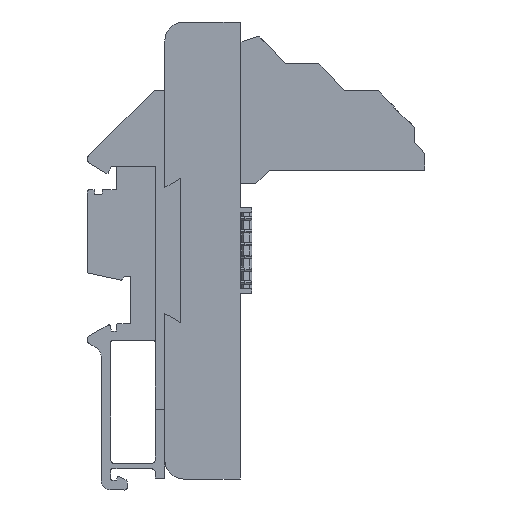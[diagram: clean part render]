
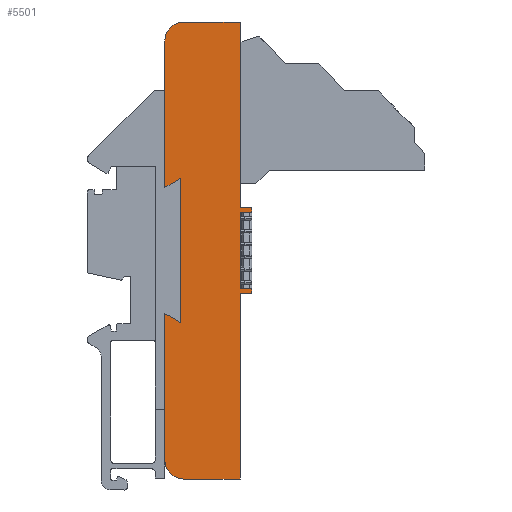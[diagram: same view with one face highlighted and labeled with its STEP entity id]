
A CAD part, front view. The second image highlights one B-rep face of the part: STEP entity #5501.
In plain terms, the highlighted planar face has unit normal (0, -1, 0).
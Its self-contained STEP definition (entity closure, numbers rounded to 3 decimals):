
#4207=CIRCLE('',#20882,4.);
#4209=CIRCLE('',#20890,4.);
#4590=FACE_OUTER_BOUND('',#7074,.T.);
#5501=ADVANCED_FACE('F188',(#4590),#6331,.T.);
#6331=PLANE('',#20900);
#7074=EDGE_LOOP('',(#8783,#8784,#8785,#8786,#8787,#8788,#8789,#8790,#8791,
#8792,#8793,#8794,#8795,#8796,#8797,#8798,#8799,#8800));
#8783=ORIENTED_EDGE('',*,*,#14928,.T.);
#8784=ORIENTED_EDGE('',*,*,#14873,.T.);
#8785=ORIENTED_EDGE('',*,*,#14877,.T.);
#8786=ORIENTED_EDGE('',*,*,#14881,.F.);
#8787=ORIENTED_EDGE('',*,*,#14882,.F.);
#8788=ORIENTED_EDGE('',*,*,#14885,.F.);
#8789=ORIENTED_EDGE('',*,*,#14888,.F.);
#8790=ORIENTED_EDGE('',*,*,#14894,.F.);
#8791=ORIENTED_EDGE('',*,*,#14441,.F.);
#8792=ORIENTED_EDGE('',*,*,#14898,.F.);
#8793=ORIENTED_EDGE('',*,*,#14902,.F.);
#8794=ORIENTED_EDGE('',*,*,#14907,.F.);
#8795=ORIENTED_EDGE('',*,*,#14912,.F.);
#8796=ORIENTED_EDGE('',*,*,#14916,.F.);
#8797=ORIENTED_EDGE('',*,*,#14921,.T.);
#8798=ORIENTED_EDGE('',*,*,#14922,.T.);
#8799=ORIENTED_EDGE('',*,*,#14925,.T.);
#8800=ORIENTED_EDGE('',*,*,#14927,.F.);
#12839=VERTEX_POINT('',#26063);
#12842=VERTEX_POINT('',#26068);
#13113=VERTEX_POINT('',#27595);
#13114=VERTEX_POINT('',#27596);
#13115=VERTEX_POINT('',#27601);
#13118=VERTEX_POINT('',#27609);
#13119=VERTEX_POINT('',#27613);
#13121=VERTEX_POINT('',#27619);
#13123=VERTEX_POINT('',#27625);
#13127=VERTEX_POINT('',#27642);
#13130=VERTEX_POINT('',#27650);
#13134=VERTEX_POINT('',#27660);
#13138=VERTEX_POINT('',#27670);
#13140=VERTEX_POINT('',#27676);
#13143=VERTEX_POINT('',#27685);
#13144=VERTEX_POINT('',#27689);
#13145=VERTEX_POINT('',#27693);
#13146=VERTEX_POINT('',#27697);
#14441=EDGE_CURVE('E43',#12842,#12839,#16947,.T.);
#14873=EDGE_CURVE('E228',#13113,#13114,#17183,.T.);
#14877=EDGE_CURVE('E503',#13114,#13115,#17187,.T.);
#14881=EDGE_CURVE('E459',#13118,#13115,#17191,.T.);
#14882=EDGE_CURVE('E17',#13119,#13118,#17192,.T.);
#14885=EDGE_CURVE('E52',#13121,#13119,#4207,.T.);
#14888=EDGE_CURVE('E49',#13123,#13121,#17196,.T.);
#14894=EDGE_CURVE('E46',#12839,#13123,#17202,.T.);
#14898=EDGE_CURVE('E39',#13127,#12842,#17206,.T.);
#14902=EDGE_CURVE('E57',#13130,#13127,#17210,.T.);
#14907=EDGE_CURVE('E54',#13134,#13130,#4209,.T.);
#14912=EDGE_CURVE('E1',#13138,#13134,#17218,.T.);
#14916=EDGE_CURVE('E455',#13140,#13138,#17222,.T.);
#14921=EDGE_CURVE('E502',#13140,#13143,#17227,.T.);
#14922=EDGE_CURVE('E224',#13143,#13144,#17228,.T.);
#14925=EDGE_CURVE('E467',#13144,#13145,#17231,.T.);
#14927=EDGE_CURVE('E453',#13146,#13145,#17233,.T.);
#14928=EDGE_CURVE('E470',#13146,#13113,#17234,.T.);
#16947=LINE('',#26069,#18801);
#17183=LINE('',#27594,#19037);
#17187=LINE('',#27602,#19041);
#17191=LINE('',#27610,#19045);
#17192=LINE('',#27612,#19046);
#17196=LINE('',#27624,#19050);
#17202=LINE('',#27635,#19056);
#17206=LINE('',#27641,#19060);
#17210=LINE('',#27649,#19064);
#17218=LINE('',#27669,#19072);
#17222=LINE('',#27677,#19076);
#17227=LINE('',#27686,#19081);
#17228=LINE('',#27688,#19082);
#17231=LINE('',#27694,#19085);
#17233=LINE('',#27698,#19087);
#17234=LINE('',#27700,#19088);
#18801=VECTOR('',#21841,1.);
#19037=VECTOR('',#22579,1.);
#19041=VECTOR('',#22585,1.);
#19045=VECTOR('',#22591,1.);
#19046=VECTOR('',#22594,1.);
#19050=VECTOR('',#22606,1.);
#19056=VECTOR('',#22614,1.);
#19060=VECTOR('',#22622,1.);
#19064=VECTOR('',#22628,1.);
#19072=VECTOR('',#22644,1.);
#19076=VECTOR('',#22650,1.);
#19081=VECTOR('',#22657,1.);
#19082=VECTOR('',#22660,1.);
#19085=VECTOR('',#22665,1.);
#19087=VECTOR('',#22669,1.);
#19088=VECTOR('',#22672,1.);
#20882=AXIS2_PLACEMENT_3D('',#27618,#22599,#22600);
#20890=AXIS2_PLACEMENT_3D('',#27659,#22635,#22636);
#20900=AXIS2_PLACEMENT_3D('',#27702,#22675,#22676);
#21841=DIRECTION('',(0.,0.,1.));
#22579=DIRECTION('',(0.,0.,1.));
#22585=DIRECTION('',(-1.,0.,0.));
#22591=DIRECTION('',(0.,0.,-1.));
#22594=DIRECTION('',(1.,0.,0.));
#22599=DIRECTION('',(0.,1.,0.));
#22600=DIRECTION('',(0.,0.,1.));
#22606=DIRECTION('',(0.,0.,1.));
#22614=DIRECTION('',(-0.866,0.,-0.5));
#22622=DIRECTION('',(0.866,0.,-0.5));
#22628=DIRECTION('',(0.,0.,1.));
#22635=DIRECTION('',(0.,1.,0.));
#22636=DIRECTION('',(0.,0.,1.));
#22644=DIRECTION('',(-1.,0.,0.));
#22650=DIRECTION('',(0.,0.,-1.));
#22657=DIRECTION('',(1.,0.,0.));
#22660=DIRECTION('',(0.,0.,1.));
#22665=DIRECTION('',(-1.,0.,0.));
#22669=DIRECTION('',(0.,0.,-1.));
#22672=DIRECTION('',(1.,0.,0.));
#22675=DIRECTION('',(0.,-1.,0.));
#22676=DIRECTION('',(0.,0.,1.));
#26063=CARTESIAN_POINT('',(3.3,-25.6,15.15));
#26068=CARTESIAN_POINT('',(3.3,-25.6,-15.15));
#26069=CARTESIAN_POINT('',(3.3,-25.6,0.));
#27594=CARTESIAN_POINT('',(18.3,-25.6,8.525));
#27595=CARTESIAN_POINT('',(18.3,-25.6,8.05));
#27596=CARTESIAN_POINT('',(18.3,-25.6,9.));
#27601=CARTESIAN_POINT('',(15.8,-25.6,9.));
#27602=CARTESIAN_POINT('',(17.05,-25.6,9.));
#27609=CARTESIAN_POINT('',(15.8,-25.6,48.));
#27610=CARTESIAN_POINT('',(15.8,-25.6,28.5));
#27612=CARTESIAN_POINT('',(9.9,-25.6,48.));
#27613=CARTESIAN_POINT('',(4.,-25.6,48.));
#27618=CARTESIAN_POINT('',(4.,-25.6,44.));
#27619=CARTESIAN_POINT('',(0.,-25.6,44.));
#27624=CARTESIAN_POINT('',(0.,-25.6,28.622));
#27625=CARTESIAN_POINT('',(0.,-25.6,13.245));
#27635=CARTESIAN_POINT('',(1.65,-25.6,14.197));
#27641=CARTESIAN_POINT('',(1.65,-25.6,-14.197));
#27642=CARTESIAN_POINT('',(0.,-25.6,-13.245));
#27649=CARTESIAN_POINT('',(0.,-25.6,-28.622));
#27650=CARTESIAN_POINT('',(0.,-25.6,-44.));
#27659=CARTESIAN_POINT('',(4.,-25.6,-44.));
#27660=CARTESIAN_POINT('',(4.,-25.6,-48.));
#27669=CARTESIAN_POINT('',(9.9,-25.6,-48.));
#27670=CARTESIAN_POINT('',(15.8,-25.6,-48.));
#27676=CARTESIAN_POINT('',(15.8,-25.6,-9.));
#27677=CARTESIAN_POINT('',(15.8,-25.6,-28.5));
#27685=CARTESIAN_POINT('',(18.3,-25.6,-9.));
#27686=CARTESIAN_POINT('',(17.05,-25.6,-9.));
#27688=CARTESIAN_POINT('',(18.3,-25.6,-8.525));
#27689=CARTESIAN_POINT('',(18.3,-25.6,-8.05));
#27693=CARTESIAN_POINT('',(15.8,-25.6,-8.05));
#27694=CARTESIAN_POINT('',(17.05,-25.6,-8.05));
#27697=CARTESIAN_POINT('',(15.8,-25.6,8.05));
#27698=CARTESIAN_POINT('',(15.8,-25.6,0.));
#27700=CARTESIAN_POINT('',(17.05,-25.6,8.05));
#27702=CARTESIAN_POINT('',(18.6,-25.6,-53.));
